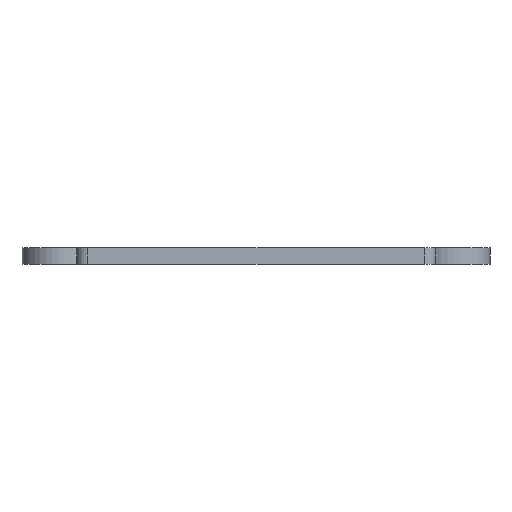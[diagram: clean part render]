
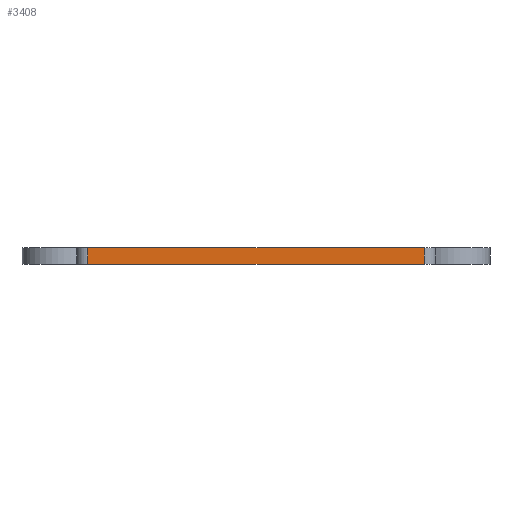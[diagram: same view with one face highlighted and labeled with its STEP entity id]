
A CAD part, front view. The second image highlights one B-rep face of the part: STEP entity #3408.
In plain terms, the highlighted planar face has unit normal (0, -1, 0).
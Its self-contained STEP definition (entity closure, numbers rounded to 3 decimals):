
#44 = PLANE('',#45);
#45 = AXIS2_PLACEMENT_3D('',#46,#47,#48);
#46 = CARTESIAN_POINT('',(0.,16.5,-20.83));
#47 = DIRECTION('',(0.,0.,1.));
#48 = DIRECTION('',(1.,0.,0.));
#72 = CYLINDRICAL_SURFACE('',#73,0.8);
#73 = AXIS2_PLACEMENT_3D('',#74,#75,#76);
#74 = CARTESIAN_POINT('',(-12.,-35.1,-20.83));
#75 = DIRECTION('',(0.,0.,-1.));
#76 = DIRECTION('',(-1.,0.,0.));
#100 = PLANE('',#101);
#101 = AXIS2_PLACEMENT_3D('',#102,#103,#104);
#102 = CARTESIAN_POINT('',(0.,16.5,-19.63));
#103 = DIRECTION('',(0.,0.,1.));
#104 = DIRECTION('',(1.,0.,0.));
#141 = VERTEX_POINT('',#142);
#142 = CARTESIAN_POINT('',(-12.,-35.9,-20.83));
#168 = EDGE_CURVE('',#141,#169,#171,.T.);
#169 = VERTEX_POINT('',#170);
#170 = CARTESIAN_POINT('',(12.,-35.9,-20.83));
#171 = SURFACE_CURVE('',#172,(#176,#183),.PCURVE_S1.);
#172 = LINE('',#173,#174);
#173 = CARTESIAN_POINT('',(0.,-35.9,-20.83));
#174 = VECTOR('',#175,1.);
#175 = DIRECTION('',(1.,0.,0.));
#176 = PCURVE('',#44,#177);
#177 = DEFINITIONAL_REPRESENTATION('',(#178),#182);
#178 = LINE('',#179,#180);
#179 = CARTESIAN_POINT('',(0.,-52.4));
#180 = VECTOR('',#181,1.);
#181 = DIRECTION('',(1.,0.));
#182 = ( GEOMETRIC_REPRESENTATION_CONTEXT(2) 
PARAMETRIC_REPRESENTATION_CONTEXT() REPRESENTATION_CONTEXT('2D SPACE',''
  ) );
#183 = PCURVE('',#184,#189);
#184 = PLANE('',#185);
#185 = AXIS2_PLACEMENT_3D('',#186,#187,#188);
#186 = CARTESIAN_POINT('',(-12.,-35.9,-20.83));
#187 = DIRECTION('',(0.,1.,0.));
#188 = DIRECTION('',(1.,0.,0.));
#189 = DEFINITIONAL_REPRESENTATION('',(#190),#194);
#190 = LINE('',#191,#192);
#191 = CARTESIAN_POINT('',(12.,0.));
#192 = VECTOR('',#193,1.);
#193 = DIRECTION('',(1.,0.));
#194 = ( GEOMETRIC_REPRESENTATION_CONTEXT(2) 
PARAMETRIC_REPRESENTATION_CONTEXT() REPRESENTATION_CONTEXT('2D SPACE',''
  ) );
#217 = CYLINDRICAL_SURFACE('',#218,0.8);
#218 = AXIS2_PLACEMENT_3D('',#219,#220,#221);
#219 = CARTESIAN_POINT('',(12.,-35.1,-20.83));
#220 = DIRECTION('',(0.,0.,-1.));
#221 = DIRECTION('',(-1.,0.,0.));
#1434 = VERTEX_POINT('',#1435);
#1435 = CARTESIAN_POINT('',(-12.,-35.9,-19.63));
#1461 = EDGE_CURVE('',#1434,#1462,#1464,.T.);
#1462 = VERTEX_POINT('',#1463);
#1463 = CARTESIAN_POINT('',(12.,-35.9,-19.63));
#1464 = SURFACE_CURVE('',#1465,(#1469,#1476),.PCURVE_S1.);
#1465 = LINE('',#1466,#1467);
#1466 = CARTESIAN_POINT('',(0.,-35.9,-19.63));
#1467 = VECTOR('',#1468,1.);
#1468 = DIRECTION('',(1.,0.,0.));
#1469 = PCURVE('',#100,#1470);
#1470 = DEFINITIONAL_REPRESENTATION('',(#1471),#1475);
#1471 = LINE('',#1472,#1473);
#1472 = CARTESIAN_POINT('',(0.,-52.4));
#1473 = VECTOR('',#1474,1.);
#1474 = DIRECTION('',(1.,0.));
#1475 = ( GEOMETRIC_REPRESENTATION_CONTEXT(2) 
PARAMETRIC_REPRESENTATION_CONTEXT() REPRESENTATION_CONTEXT('2D SPACE',''
  ) );
#1476 = PCURVE('',#184,#1477);
#1477 = DEFINITIONAL_REPRESENTATION('',(#1478),#1482);
#1478 = LINE('',#1479,#1480);
#1479 = CARTESIAN_POINT('',(12.,-1.2));
#1480 = VECTOR('',#1481,1.);
#1481 = DIRECTION('',(1.,0.));
#1482 = ( GEOMETRIC_REPRESENTATION_CONTEXT(2) 
PARAMETRIC_REPRESENTATION_CONTEXT() REPRESENTATION_CONTEXT('2D SPACE',''
  ) );
#2441 = EDGE_CURVE('',#141,#1434,#2442,.T.);
#2442 = SURFACE_CURVE('',#2443,(#2447,#2454),.PCURVE_S1.);
#2443 = LINE('',#2444,#2445);
#2444 = CARTESIAN_POINT('',(-12.,-35.9,-20.83));
#2445 = VECTOR('',#2446,1.);
#2446 = DIRECTION('',(0.,0.,1.));
#2447 = PCURVE('',#72,#2448);
#2448 = DEFINITIONAL_REPRESENTATION('',(#2449),#2453);
#2449 = LINE('',#2450,#2451);
#2450 = CARTESIAN_POINT('',(4.712,0.));
#2451 = VECTOR('',#2452,1.);
#2452 = DIRECTION('',(0.,-1.));
#2453 = ( GEOMETRIC_REPRESENTATION_CONTEXT(2) 
PARAMETRIC_REPRESENTATION_CONTEXT() REPRESENTATION_CONTEXT('2D SPACE',''
  ) );
#2454 = PCURVE('',#184,#2455);
#2455 = DEFINITIONAL_REPRESENTATION('',(#2456),#2460);
#2456 = LINE('',#2457,#2458);
#2457 = CARTESIAN_POINT('',(0.,0.));
#2458 = VECTOR('',#2459,1.);
#2459 = DIRECTION('',(0.,-1.));
#2460 = ( GEOMETRIC_REPRESENTATION_CONTEXT(2) 
PARAMETRIC_REPRESENTATION_CONTEXT() REPRESENTATION_CONTEXT('2D SPACE',''
  ) );
#3387 = EDGE_CURVE('',#169,#1462,#3388,.T.);
#3388 = SURFACE_CURVE('',#3389,(#3393,#3400),.PCURVE_S1.);
#3389 = LINE('',#3390,#3391);
#3390 = CARTESIAN_POINT('',(12.,-35.9,-20.83));
#3391 = VECTOR('',#3392,1.);
#3392 = DIRECTION('',(0.,0.,1.));
#3393 = PCURVE('',#217,#3394);
#3394 = DEFINITIONAL_REPRESENTATION('',(#3395),#3399);
#3395 = LINE('',#3396,#3397);
#3396 = CARTESIAN_POINT('',(4.712,0.));
#3397 = VECTOR('',#3398,1.);
#3398 = DIRECTION('',(0.,-1.));
#3399 = ( GEOMETRIC_REPRESENTATION_CONTEXT(2) 
PARAMETRIC_REPRESENTATION_CONTEXT() REPRESENTATION_CONTEXT('2D SPACE',''
  ) );
#3400 = PCURVE('',#184,#3401);
#3401 = DEFINITIONAL_REPRESENTATION('',(#3402),#3406);
#3402 = LINE('',#3403,#3404);
#3403 = CARTESIAN_POINT('',(24.,0.));
#3404 = VECTOR('',#3405,1.);
#3405 = DIRECTION('',(0.,-1.));
#3406 = ( GEOMETRIC_REPRESENTATION_CONTEXT(2) 
PARAMETRIC_REPRESENTATION_CONTEXT() REPRESENTATION_CONTEXT('2D SPACE',''
  ) );
#3408 = ADVANCED_FACE('',(#3409),#184,.F.);
#3409 = FACE_BOUND('',#3410,.F.);
#3410 = EDGE_LOOP('',(#3411,#3412,#3413,#3414));
#3411 = ORIENTED_EDGE('',*,*,#2441,.T.);
#3412 = ORIENTED_EDGE('',*,*,#1461,.T.);
#3413 = ORIENTED_EDGE('',*,*,#3387,.F.);
#3414 = ORIENTED_EDGE('',*,*,#168,.F.);
